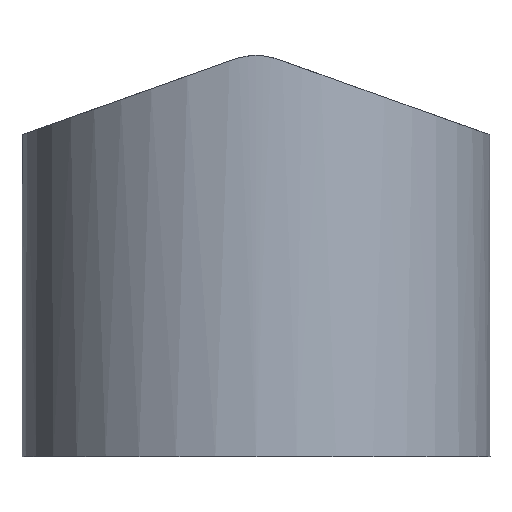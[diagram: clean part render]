
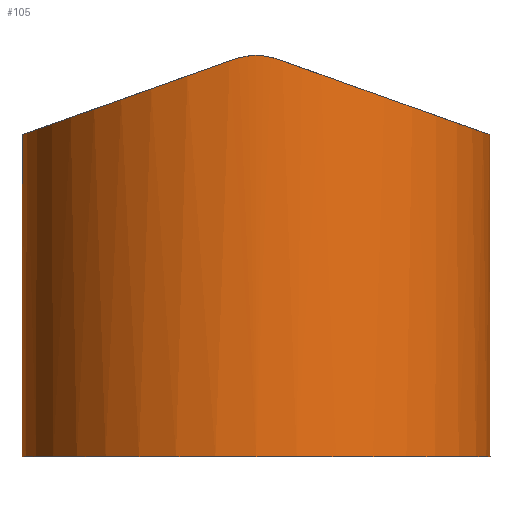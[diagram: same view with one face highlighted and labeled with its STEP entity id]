
A CAD part, left-side view. The second image highlights one B-rep face of the part: STEP entity #105.
In plain terms, the highlighted cylindrical face has radius 4.445 mm (diameter 8.89 mm), a full revolution.
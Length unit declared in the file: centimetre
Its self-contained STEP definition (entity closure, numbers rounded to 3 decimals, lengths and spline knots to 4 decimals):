
#34=CIRCLE('',#112,0.4445);
#35=CYLINDRICAL_SURFACE('',#111,0.4445);
#36=B_SPLINE_CURVE_WITH_KNOTS('',3,(#148,#149,#150,#151,#152,#153),.UNSPECIFIED.,
 .F.,.U.,(4,2,4),(0.,0.0126,0.0512),.UNSPECIFIED.);
#37=B_SPLINE_CURVE_WITH_KNOTS('',3,(#155,#156,#157,#158,#159,#160),.UNSPECIFIED.,
 .F.,.U.,(4,2,4),(0.,0.0225,0.0422),.UNSPECIFIED.);
#38=B_SPLINE_CURVE_WITH_KNOTS('',3,(#173,#174,#175,#176,#177,#178),.UNSPECIFIED.,
 .F.,.U.,(4,2,4),(0.,0.0225,0.0422),.UNSPECIFIED.);
#39=B_SPLINE_CURVE_WITH_KNOTS('',3,(#179,#180,#181,#182,#183,#184),.UNSPECIFIED.,
 .F.,.U.,(4,2,4),(0.,0.0126,0.0512),.UNSPECIFIED.);
#48=VERTEX_POINT('',#130);
#49=VERTEX_POINT('',#131);
#50=VERTEX_POINT('',#135);
#51=VERTEX_POINT('',#136);
#52=VERTEX_POINT('',#154);
#53=VERTEX_POINT('',#161);
#54=VERTEX_POINT('',#187);
#55=ELLIPSE('',#108,0.4719,0.4445);
#56=ELLIPSE('',#110,0.4719,0.4445);
#57=EDGE_CURVE('',#48,#49,#55,.T.);
#59=EDGE_CURVE('',#50,#51,#56,.T.);
#61=EDGE_CURVE('',#51,#52,#36,.T.);
#62=EDGE_CURVE('',#53,#50,#37,.T.);
#64=EDGE_CURVE('',#52,#48,#38,.T.);
#65=EDGE_CURVE('',#49,#53,#39,.T.);
#66=EDGE_CURVE('',#54,#54,#34,.T.);
#79=ORIENTED_EDGE('',*,*,#59,.T.);
#80=ORIENTED_EDGE('',*,*,#61,.T.);
#81=ORIENTED_EDGE('',*,*,#64,.T.);
#82=ORIENTED_EDGE('',*,*,#57,.T.);
#83=ORIENTED_EDGE('',*,*,#65,.T.);
#84=ORIENTED_EDGE('',*,*,#62,.T.);
#85=ORIENTED_EDGE('',*,*,#66,.T.);
#91=EDGE_LOOP('',(#79,#80,#81,#82,#83,#84));
#92=EDGE_LOOP('',(#85));
#98=FACE_BOUND('',#91,.T.);
#99=FACE_BOUND('',#92,.T.);
#105=ADVANCED_FACE('',(#98,#99),#35,.T.);
#108=AXIS2_PLACEMENT_3D('',#129,#115,#116);
#110=AXIS2_PLACEMENT_3D('',#134,#119,#120);
#111=AXIS2_PLACEMENT_3D('',#185,#123,#124);
#112=AXIS2_PLACEMENT_3D('',#186,#125,#126);
#115=DIRECTION('',(0.,0.336,-0.942));
#116=DIRECTION('',(0.,0.445,0.158));
#119=DIRECTION('',(0.,-0.336,-0.942));
#120=DIRECTION('',(0.,0.445,-0.158));
#123=DIRECTION('',(0.,0.,1.));
#124=DIRECTION('',(0.445,0.,0.));
#125=DIRECTION('',(0.,0.,1.));
#126=DIRECTION('',(0.445,0.,0.));
#129=CARTESIAN_POINT('',(0.,0.,0.7696));
#130=CARTESIAN_POINT('',(0.4417,-0.05,0.7517));
#131=CARTESIAN_POINT('',(-0.4417,-0.05,0.7517));
#134=CARTESIAN_POINT('',(0.,0.,0.7696));
#135=CARTESIAN_POINT('',(-0.4417,0.05,0.7517));
#136=CARTESIAN_POINT('',(0.4417,0.05,0.7517));
#148=CARTESIAN_POINT('',(0.4417,0.05,0.7517));
#149=CARTESIAN_POINT('',(0.4421,0.0461,0.7531));
#150=CARTESIAN_POINT('',(0.4425,0.0421,0.7545));
#151=CARTESIAN_POINT('',(0.4439,0.0258,0.7594));
#152=CARTESIAN_POINT('',(0.4445,0.0128,0.762));
#153=CARTESIAN_POINT('',(0.4445,0.,0.762));
#154=CARTESIAN_POINT('',(0.4445,0.,0.762));
#155=CARTESIAN_POINT('',(-0.4445,0.,0.762));
#156=CARTESIAN_POINT('',(-0.4445,0.0075,0.762));
#157=CARTESIAN_POINT('',(-0.4443,0.0159,0.7611));
#158=CARTESIAN_POINT('',(-0.4433,0.0338,0.7571));
#159=CARTESIAN_POINT('',(-0.4426,0.042,0.7546));
#160=CARTESIAN_POINT('',(-0.4417,0.05,0.7517));
#161=CARTESIAN_POINT('',(-0.4445,0.,0.762));
#173=CARTESIAN_POINT('',(0.4445,0.,0.762));
#174=CARTESIAN_POINT('',(0.4445,-0.0075,0.762));
#175=CARTESIAN_POINT('',(0.4443,-0.0159,0.7611));
#176=CARTESIAN_POINT('',(0.4433,-0.0338,0.7571));
#177=CARTESIAN_POINT('',(0.4426,-0.042,0.7546));
#178=CARTESIAN_POINT('',(0.4417,-0.05,0.7517));
#179=CARTESIAN_POINT('',(-0.4417,-0.05,0.7517));
#180=CARTESIAN_POINT('',(-0.4421,-0.0461,0.7531));
#181=CARTESIAN_POINT('',(-0.4425,-0.0421,0.7545));
#182=CARTESIAN_POINT('',(-0.4439,-0.0258,0.7594));
#183=CARTESIAN_POINT('',(-0.4445,-0.0128,0.762));
#184=CARTESIAN_POINT('',(-0.4445,0.,0.762));
#185=CARTESIAN_POINT('',(0.,0.,0.));
#186=CARTESIAN_POINT('',(0.,0.,0.));
#187=CARTESIAN_POINT('',(0.4445,0.,0.));
